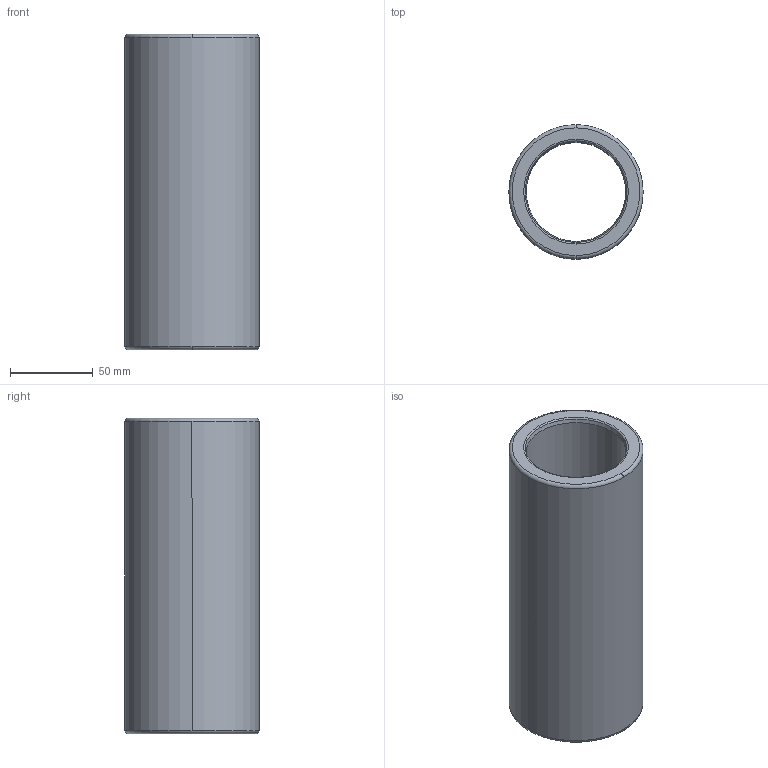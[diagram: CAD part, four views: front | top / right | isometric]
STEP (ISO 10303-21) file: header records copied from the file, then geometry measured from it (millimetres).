
FILE_DESCRIPTION((''),'2;1');
FILE_NAME('B30_048_190.stp','2009-01-12T10:54:54',(''),(''),'Mechanical Desktop 2009','Mechanical Desktop 2009',', , ');
FILE_SCHEMA(('CONFIG_CONTROL_DESIGN'));
Length unit declared in the file: millimetre
Products named in the file (2): Product; blmdl1
Assembly tree (1 placements, depth 2):
  Product
    blmdl1
Bounding box: 80.98 x 80.98 x 190 mm (x, y, z)
Volume: 441212.1 mm3; surface area: 88005.6 mm2
Topology: 1 solids, 1 shells, 18 faces, 48 edges, 32 vertices
Faces by surface type: torus 8, cylinder 4, cone 4, plane 2
Entity records: 705 total; most frequent: DIRECTION 128, CARTESIAN_POINT 100, ORIENTED_EDGE 96, AXIS2_PLACEMENT_3D 60, EDGE_CURVE 48, CIRCLE 40, VERTEX_POINT 32, EDGE_LOOP 20
